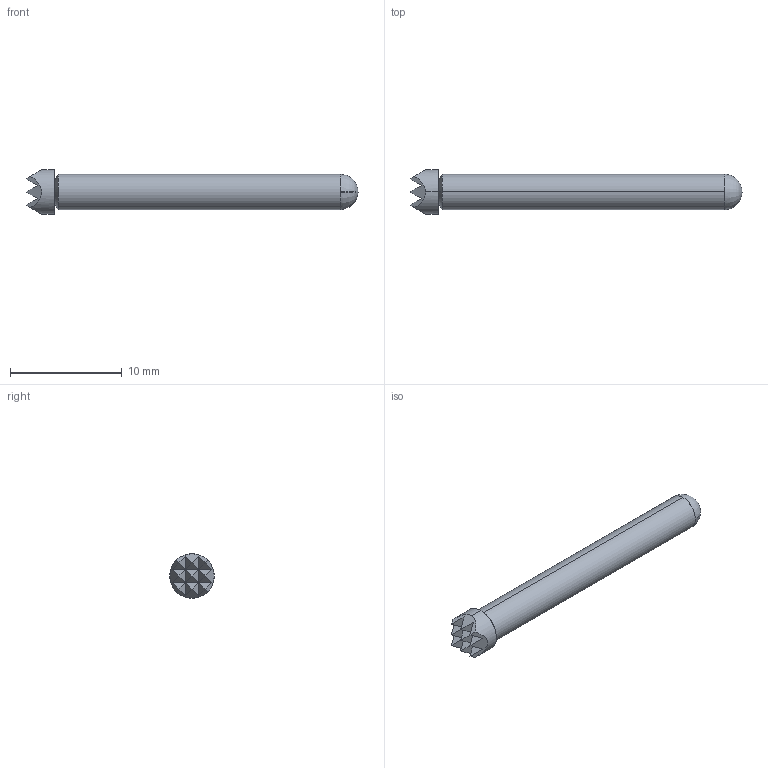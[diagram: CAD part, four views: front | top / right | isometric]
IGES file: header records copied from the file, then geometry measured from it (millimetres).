
Start section: SolidWorks IGES file using analytic representation for surfaces
Global section: file name: Z:\probe solid model mockups\Solidworks models\IGES Files\HCP-15 IGES files\HCP-15H Full.IGS; native system: SolidWorks 2006 by SolidWorks Corporation; preprocessor: SolidWorks 2006 by SolidWorks Corporation; author: tsakatani; date: 071202.143831; units: inch
Bounding box: 29.72 x 3.96 x 3.96 mm (x, y, z)
Surface area: 325.4 mm2 (no closed solid volume)
Topology: 0 solids, 0 shells, 37 faces, 258 edges, 256 vertices
Faces by surface type: bspline 29, revolution 8
